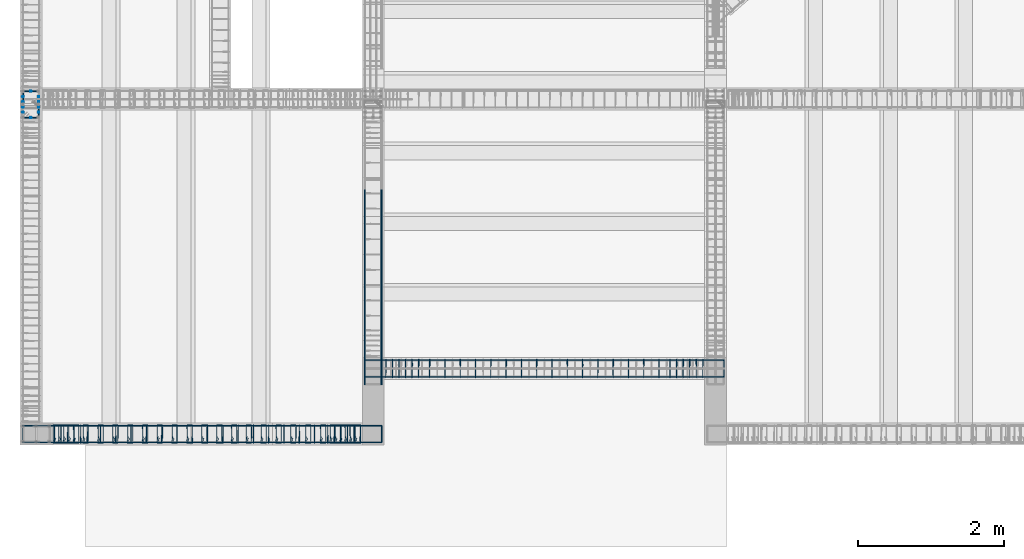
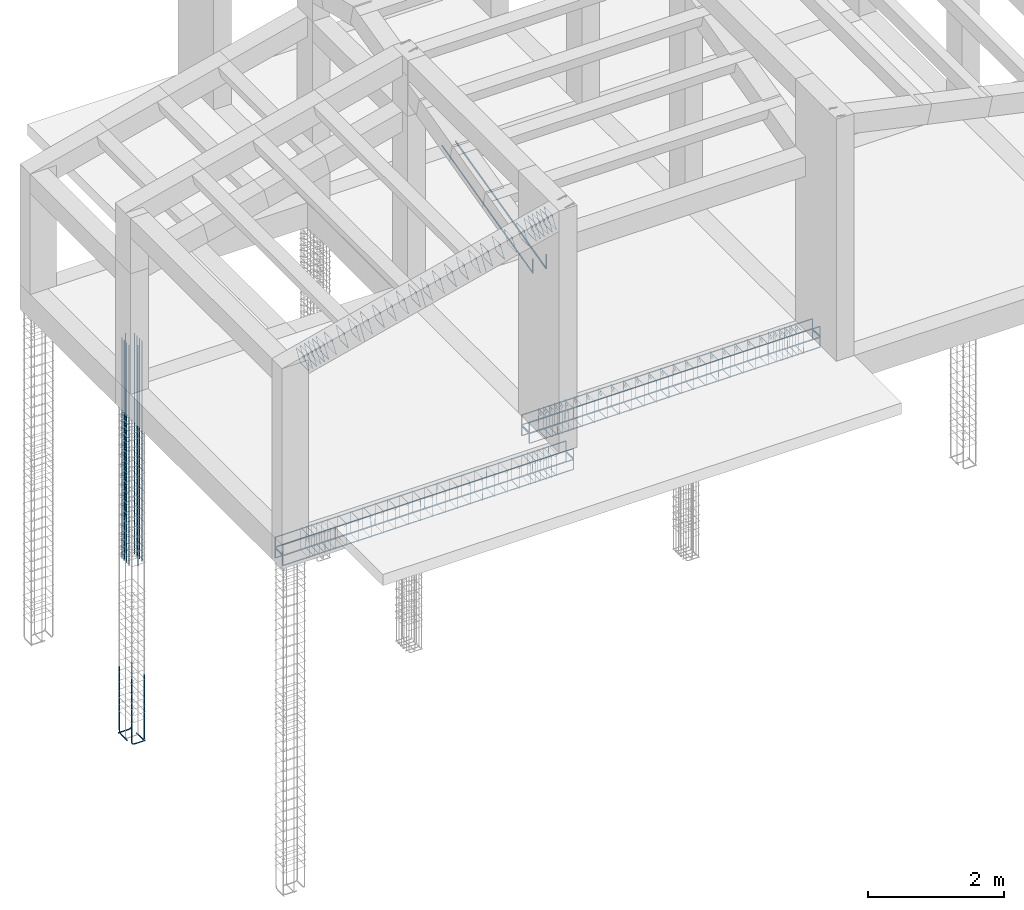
# One storey, part 3 of 15: 11 reinforcing bars.
"""IFC4 building model written with IfcOpenShell, lengths in metres."""

import ifcopenshell
import ifcopenshell.guid

model = None  # the IFC model being written
_history = None  # IfcOwnerHistory: only IFC2X3 demands one
_inside = {}  # id of a spatial element -> (the spatial element, [elements in it])
_under = {}  # id of a project, library or spatial element -> (it, [spatial elements below it])
_declared = {}  # id of a project -> (the project, [libraries it declares])
_typed = {}  # id of a type object -> (the type object, [elements of that type])
_made_of = {}  # id of a material, layer set ... -> (it, [elements and type objects made of it])


def new_model(schema):
    """Start an empty IFC model of exactly this schema.

    Asked for "IFC4X3", IfcOpenShell would pick the latest addendum, in which some entities
    have other attributes; the version numbers below select the first issue.
    IFC2X3 requires an IfcOwnerHistory on every rooted entity: one is made here for all.
    """
    global model, _history
    if schema == "IFC4X3":
        model = ifcopenshell.file(schema_version=(4, 3, 0, 0))
    else:
        model = ifcopenshell.file(schema=schema)
    _inside.clear()
    _under.clear()
    _declared.clear()
    _typed.clear()
    _made_of.clear()
    _history = None
    if model.schema == "IFC2X3":
        org = make("IfcOrganization", Name="unknown")
        user = make(
            "IfcPersonAndOrganization",
            ThePerson=make("IfcPerson", FamilyName="unknown"),
            TheOrganization=org,
        )
        app = make(
            "IfcApplication",
            ApplicationDeveloper=org,
            Version="unknown",
            ApplicationFullName="unknown",
            ApplicationIdentifier="unknown",
        )
        _history = make(
            "IfcOwnerHistory",
            OwningUser=user,
            OwningApplication=app,
            ChangeAction="ADDED",
            CreationDate=0,
        )
    return model


def make(cls, **values):
    """One entity of the class cls with the attributes given. An attribute that is None is left unset."""
    return model.create_entity(
        cls, **{name: value for name, value in values.items() if value is not None}
    )


def entity(cls, *values):
    """Any entity or typed value of the class cls, its attributes in the order of the schema. None: left unset."""
    e = model.create_entity(cls)
    for i, value in enumerate(values):
        if value is not None:
            e[i] = value
    return e


def rooted(cls, **values):
    """An entity with a GlobalId (a new one), such as an element, a storey or a relation."""
    return make(cls, GlobalId=ifcopenshell.guid.new(), OwnerHistory=_history, **values)


def si_unit(unit_type, name, prefix=None):
    """IfcSIUnit, for example si_unit("LENGTHUNIT", "METRE", prefix="MILLI")."""
    return make("IfcSIUnit", UnitType=unit_type, Prefix=prefix, Name=name)


def assignment(units):
    """IfcUnitAssignment: the units of a project."""
    return None if units is None else make("IfcUnitAssignment", Units=units)


def point(xyz):
    """IfcCartesianPoint."""
    return None if xyz is None else make("IfcCartesianPoint", Coordinates=xyz)


def direction(xyz):
    """IfcDirection."""
    return None if xyz is None else make("IfcDirection", DirectionRatios=xyz)


def frame(location, z_axis=None, x_axis=None):
    """IfcAxis2Placement3D, a coordinate frame: its origin and axes. An axis left out is left unset."""
    return make(
        "IfcAxis2Placement3D",
        Location=point(location),
        Axis=direction(z_axis),
        RefDirection=direction(x_axis),
    )


def origin_with_axes():
    """The frame at (0, 0, 0) with the z axis (0, 0, 1) and the x axis (1, 0, 0) written out."""
    return frame((0.0, 0.0, 0.0), z_axis=(0.0, 0.0, 1.0), x_axis=(1.0, 0.0, 0.0))


def place(relative_to, where):
    """IfcLocalPlacement: puts the frame where relative to a parent placement (None: the world)."""
    return make(
        "IfcLocalPlacement", PlacementRelTo=relative_to, RelativePlacement=where
    )


def context(
    kind, dimensions, precision=None, world=None, true_north=None, identifier=None
):
    """IfcGeometricRepresentationContext, for example the 3D "Model" context."""
    return make(
        "IfcGeometricRepresentationContext",
        ContextIdentifier=identifier,
        ContextType=kind,
        CoordinateSpaceDimension=dimensions,
        Precision=precision,
        WorldCoordinateSystem=world,
        TrueNorth=true_north,
    )


def project(units=None, contexts=None):
    """IfcProject with its units and contexts."""
    return rooted(
        "IfcProject",
        Name="project",
        RepresentationContexts=contexts,
        UnitsInContext=assignment(units),
    )


def spatial(cls, under=None, at=None, **own):
    """A site, building, storey or space (cls), placed at a placement, below another one or the project."""
    s = rooted(cls, ObjectPlacement=at, **own)
    if under is not None:
        _under.setdefault(under.id(), (under, []))[1].append(s)
    return s


def shape(context_of_items, identifier, shape_type, items):
    """IfcShapeRepresentation: the items that make up one representation, for example the "Body"."""
    return make(
        "IfcShapeRepresentation",
        ContextOfItems=context_of_items,
        RepresentationIdentifier=identifier,
        RepresentationType=shape_type,
        Items=items,
    )


def source(mapping_origin, context_of_items, identifier, shape_type, items):
    """IfcRepresentationMap: a shape defined once, which mapped items show again and again."""
    return make(
        "IfcRepresentationMap",
        MappingOrigin=mapping_origin,
        MappedRepresentation=shape(context_of_items, identifier, shape_type, items),
    )


def transform(
    local_origin,
    x_axis=None,
    y_axis=None,
    z_axis=None,
    scale=None,
    scale2=None,
    scale3=None,
    uniform=True,
):
    """IfcCartesianTransformationOperator3D, or its non-uniform kind. x_axis, y_axis, z_axis: its Axis1, 2, 3."""
    if uniform:
        return make(
            "IfcCartesianTransformationOperator3D",
            Axis1=direction(x_axis),
            Axis2=direction(y_axis),
            LocalOrigin=point(local_origin),
            Scale=scale,
            Axis3=direction(z_axis),
        )
    return make(
        "IfcCartesianTransformationOperator3DnonUniform",
        Axis1=direction(x_axis),
        Axis2=direction(y_axis),
        LocalOrigin=point(local_origin),
        Scale=scale,
        Axis3=direction(z_axis),
        Scale2=scale2,
        Scale3=scale3,
    )


def mapped(mapping_source, mapping_target):
    """IfcMappedItem: shows the shape of a source again, moved by a transform."""
    return make(
        "IfcMappedItem", MappingSource=mapping_source, MappingTarget=mapping_target
    )


def made_of(thing, what):
    """Note that an element or type object is made of a material, layer set ...; save() writes the relation."""
    if what is not None:
        _made_of.setdefault(what.id(), (what, []))[1].append(thing)
    return thing


def element(
    cls,
    number,
    at=None,
    inside=None,
    cuts=None,
    type_object=None,
    material=None,
    context=None,
    identifier="Body",
    shape_type=None,
    held_by="IfcProductDefinitionShape",
    body=None,
    shapes=None,
    **own,
):
    """One element of the class cls, such as IfcWall. Its Tag is "e" and its number.

    at: its placement. inside: the storey or other place that contains it. cuts: it is an
    opening in that element (IfcRelVoidsElement). A single representation is given by context,
    identifier, shape_type and body (its items); several are given by shapes. held_by: the class
    of the entity that holds the representations. save() writes the other relations.
    """
    e = rooted(cls, Tag="e%d" % number, ObjectPlacement=at, **own)
    if body is not None:
        shapes = [shape(context, identifier, shape_type, body)]
    if shapes is not None:
        e.Representation = make(held_by, Representations=shapes)
    if inside is not None:
        _inside.setdefault(inside.id(), (inside, []))[1].append(e)
    if cuts is not None:
        rooted(
            "IfcRelVoidsElement", RelatingBuildingElement=cuts, RelatedOpeningElement=e
        )
    if type_object is not None:
        _typed.setdefault(type_object.id(), (type_object, []))[1].append(e)
    return made_of(e, material)


def aggregate(whole, parts):
    """IfcRelAggregates: a whole, such as a stair, and the parts it consists of."""
    return rooted("IfcRelAggregates", RelatingObject=whole, RelatedObjects=parts)


def save(model, path):
    """Write the relations noted so far, then the file.

    IfcRelAggregates (storeys below a building ...), IfcRelContainedInSpatialStructure (elements
    in a storey), IfcRelDefinesByType, IfcRelAssociatesMaterial and IfcRelDeclares: one each for
    every whole, place, type object, material and project.
    """
    for whole, parts in _under.values():
        aggregate(whole, parts)
    for where, things in _inside.values():
        rooted(
            "IfcRelContainedInSpatialStructure",
            RelatedElements=things,
            RelatingStructure=where,
        )
    for kind, things in _typed.values():
        rooted("IfcRelDefinesByType", RelatedObjects=things, RelatingType=kind)
    for what, things in _made_of.values():
        rooted("IfcRelAssociatesMaterial", RelatedObjects=things, RelatingMaterial=what)
    for by, libraries in _declared.values():
        rooted("IfcRelDeclares", RelatingContext=by, RelatedDefinitions=libraries)
    model.write(path)


model = new_model("IFC4")

# Units and contexts
model_context = context("Model", 3, precision=1e-05, world=origin_with_axes())
ifc_project = project(units=[si_unit("LENGTHUNIT", "METRE"), si_unit("AREAUNIT", "SQUARE_METRE"), si_unit("VOLUMEUNIT", "CUBIC_METRE"), si_unit("MASSUNIT", "GRAM", prefix="KILO"), si_unit("TIMEUNIT", "SECOND"), si_unit("PLANEANGLEUNIT", "RADIAN"), si_unit("SOLIDANGLEUNIT", "STERADIAN"), si_unit("THERMODYNAMICTEMPERATUREUNIT", "DEGREE_CELSIUS")], contexts=[model_context])

# Site, building, storey
placement_1 = place(None, origin_with_axes())
site = spatial("IfcSite", under=ifc_project, at=placement_1, Name="Italia", CompositionType="ELEMENT")
building = spatial("IfcBuilding", under=site, at=placement_1, Name="Bifamiliare", CompositionType="ELEMENT")
storey_placement = place(None, frame((0.0, 0.0, 5.949999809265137), z_axis=(0.0, 0.0, 1.0), x_axis=(1.0, 0.0, 0.0)))
storey = spatial("IfcBuildingStorey", under=building, at=storey_placement, Name="Storey 2", CompositionType="ELEMENT", Elevation=5.949999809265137)

# Reinforcing bars
shared_shape_1 = source(origin_with_axes(), model_context, "Body", "AdvancedSweptSolid", [
    entity("IfcSweptDiskSolid", entity("IfcIndexedPolyCurve", entity("IfcCartesianPointList3D", [[1.376, 5.894, -0.375], [1.194, 5.894, -0.375], [1.17487, 5.894, -0.371194], [1.15864, 5.894, -0.360355], [1.14781, 5.894, -0.344134], [1.144, 5.894, -0.325], [1.144, 5.894, 0.8125]]), [entity("IfcLineIndex", [1, 2]), entity("IfcLineIndex", [2, 3]), entity("IfcLineIndex", [3, 4]), entity("IfcLineIndex", [4, 5]), entity("IfcLineIndex", [5, 6]), entity("IfcLineIndex", [6, 7])], False), 0.01),
])
placement_2 = place(placement_1, origin_with_axes())
reinforcing_bar_1_placement = place(placement_2, origin_with_axes())
element("IfcReinforcingBar", 1, at=reinforcing_bar_1_placement, inside=storey, BarLength=1.39754, CrossSectionArea=0.00031416, NominalDiameter=0.02, context=model_context, shape_type="MappedRepresentation", body=[
    mapped(shared_shape_1, transform((-4.75, 7.4, 0.0), x_axis=(0.0, -1.0, 0.0), y_axis=(1.0, 0.0, 0.0), z_axis=(0.0, 0.0, 1.0), scale=1.0)),
    mapped(shared_shape_1, transform((0.0, 0.0, 0.0), x_axis=(1.0, 0.0, 0.0), y_axis=(0.0, 1.0, 0.0), z_axis=(0.0, 0.0, 1.0), scale=1.0)),
    mapped(shared_shape_1, transform((7.25, 4.75, 0.0), x_axis=(0.0, 1.0, 0.0), y_axis=(-1.0, 0.0, 0.0), z_axis=(0.0, 0.0, 1.0), scale=1.0)),
    mapped(shared_shape_1, transform((2.5, 12.15, 0.0), x_axis=(-1.0, 0.0, 0.0), y_axis=(0.0, -1.0, 0.0), z_axis=(0.0, 0.0, 1.0), scale=1.0)),
])
shared_shape_2 = source(origin_with_axes(), model_context, "Body", "AdvancedSweptSolid", [
    entity("IfcSweptDiskSolid", entity("IfcIndexedPolyCurve", entity("IfcCartesianPointList3D", [[1.142, 5.9676, 2.8], [1.142, 5.9676, 6.75]]), [entity("IfcLineIndex", [1, 2])], False), 0.008),
])
reinforcing_bar_2_placement = place(placement_2, origin_with_axes())
element("IfcReinforcingBar", 2, at=reinforcing_bar_2_placement, inside=storey, BarLength=3.95, CrossSectionArea=0.00020106, NominalDiameter=0.016, context=model_context, shape_type="MappedRepresentation", body=[
    mapped(shared_shape_2, transform((0.216, 0.143199, 0.0), x_axis=(1.0, 0.0, 0.0), y_axis=(0.0, 1.0, 0.0), z_axis=(0.0, 0.0, 1.0), scale=1.0)),
    mapped(shared_shape_2, transform((0.216, 0.214799, 0.0), x_axis=(1.0, 0.0, 0.0), y_axis=(0.0, 1.0, 0.0), z_axis=(0.0, 0.0, 1.0), scale=1.0)),
    mapped(shared_shape_2, transform((0.216, 0.0, 0.0), x_axis=(1.0, 0.0, 0.0), y_axis=(0.0, 1.0, 0.0), z_axis=(0.0, 0.0, 1.0), scale=1.0)),
    mapped(shared_shape_2, transform((0.216, 0.0715995, 0.0), x_axis=(1.0, 0.0, 0.0), y_axis=(0.0, 1.0, 0.0), z_axis=(0.0, 0.0, 1.0), scale=1.0)),
    mapped(shared_shape_2, transform((0.0, 0.0, 0.0), x_axis=(1.0, 0.0, 0.0), y_axis=(0.0, 1.0, 0.0), z_axis=(0.0, 0.0, 1.0), scale=1.0)),
    mapped(shared_shape_2, transform((0.107995, -0.0756006, 0.0), x_axis=(1.0, 0.0, 0.0), y_axis=(0.0, 1.0, 0.0), z_axis=(0.0, 0.0, 1.0), scale=1.0)),
    mapped(shared_shape_2, transform((0.0, 0.143199, 0.0), x_axis=(1.0, 0.0, 0.0), y_axis=(0.0, 1.0, 0.0), z_axis=(0.0, 0.0, 1.0), scale=1.0)),
    mapped(shared_shape_2, transform((0.0, 0.0715995, 0.0), x_axis=(1.0, 0.0, 0.0), y_axis=(0.0, 1.0, 0.0), z_axis=(0.0, 0.0, 1.0), scale=1.0)),
    mapped(shared_shape_2, transform((0.108005, 0.2904, 0.0), x_axis=(1.0, 0.0, 0.0), y_axis=(0.0, 1.0, 0.0), z_axis=(0.0, 0.0, 1.0), scale=1.0)),
    mapped(shared_shape_2, transform((0.0, 0.214799, 0.0), x_axis=(1.0, 0.0, 0.0), y_axis=(0.0, 1.0, 0.0), z_axis=(0.0, 0.0, 1.0), scale=1.0)),
])
shared_shape_3 = source(origin_with_axes(), model_context, "Body", "AdvancedSweptSolid", [
    entity("IfcSweptDiskSolid", entity("IfcIndexedPolyCurve", entity("IfcCartesianPointList3D", [[1.578, 1.49471, 5.83429], [1.57741, 1.42693, 5.90207], [1.57736, 1.424, 5.90914], [1.57732, 1.424, 5.916], [1.5773, 1.42476, 5.91983], [1.57727, 1.42693, 5.92307], [1.57725, 1.43017, 5.92524], [1.57722, 1.434, 5.926], [1.5758, 1.666, 5.926], [1.57577, 1.66983, 5.92524], [1.57575, 1.67307, 5.92307], [1.57572, 1.67524, 5.91983], [1.5757, 1.676, 5.916], [1.57341, 1.676, 5.544], [1.57339, 1.67524, 5.54017], [1.57336, 1.67307, 5.53693], [1.57334, 1.66983, 5.53476], [1.57331, 1.666, 5.534], [1.57189, 1.434, 5.534], [1.57186, 1.43017, 5.53476], [1.57184, 1.42693, 5.53693], [1.57181, 1.42476, 5.54017], [1.57179, 1.424, 5.544], [1.5695, 1.424, 5.916], [1.56948, 1.42476, 5.91983], [1.56945, 1.42693, 5.92307], [1.56943, 1.43017, 5.92524], [1.56941, 1.434, 5.926], [1.56936, 1.44086, 5.926], [1.56932, 1.44793, 5.92307], [1.56873, 1.51571, 5.85529]]), [entity("IfcLineIndex", [1, 2]), entity("IfcLineIndex", [2, 3]), entity("IfcLineIndex", [3, 4]), entity("IfcLineIndex", [4, 5]), entity("IfcLineIndex", [5, 6]), entity("IfcLineIndex", [6, 7]), entity("IfcLineIndex", [7, 8]), entity("IfcLineIndex", [8, 9]), entity("IfcLineIndex", [9, 10]), entity("IfcLineIndex", [10, 11]), entity("IfcLineIndex", [11, 12]), entity("IfcLineIndex", [12, 13]), entity("IfcLineIndex", [13, 14]), entity("IfcLineIndex", [14, 15]), entity("IfcLineIndex", [15, 16]), entity("IfcLineIndex", [16, 17]), entity("IfcLineIndex", [17, 18]), entity("IfcLineIndex", [18, 19]), entity("IfcLineIndex", [19, 20]), entity("IfcLineIndex", [20, 21]), entity("IfcLineIndex", [21, 22]), entity("IfcLineIndex", [22, 23]), entity("IfcLineIndex", [23, 24]), entity("IfcLineIndex", [24, 25]), entity("IfcLineIndex", [25, 26]), entity("IfcLineIndex", [26, 27]), entity("IfcLineIndex", [27, 28]), entity("IfcLineIndex", [28, 29]), entity("IfcLineIndex", [29, 30]), entity("IfcLineIndex", [30, 31])], False), 0.004),
])
reinforcing_bar_3_placement = place(placement_2, origin_with_axes())
element("IfcReinforcingBar", 3, at=reinforcing_bar_3_placement, inside=storey, BarLength=1.50681, CrossSectionArea=5.0265e-05, NominalDiameter=0.008, context=model_context, shape_type="MappedRepresentation", body=[
    mapped(shared_shape_3, transform((0.0, 0.0, 0.0), x_axis=(1.0, 0.0, 0.0), y_axis=(0.0, 1.0, 0.0), z_axis=(0.0, 0.0, 1.0), scale=1.0)),
    mapped(shared_shape_3, transform((0.36, 0.0, 0.0), x_axis=(1.0, 0.0, 0.0), y_axis=(0.0, 1.0, 0.0), z_axis=(0.0, 0.0, 1.0), scale=1.0)),
    mapped(shared_shape_3, transform((0.0900005, 0.0, 0.0), x_axis=(1.0, 0.0, 0.0), y_axis=(0.0, 1.0, 0.0), z_axis=(0.0, 0.0, 1.0), scale=1.0)),
    mapped(shared_shape_3, transform((1.89122, -5.16176e-05, -4.673e-05), x_axis=(1.0, 3.17295e-05, 3.00232e-05), y_axis=(-3.17858e-05, 1.0, 0.0), z_axis=(-3.00232e-05, 0.0, 1.0), scale=1.0)),
    mapped(shared_shape_3, transform((0.841223, -5.16176e-05, -4.673e-05), x_axis=(1.0, 3.17295e-05, 3.00232e-05), y_axis=(-3.17858e-05, 1.0, 0.0), z_axis=(-3.00232e-05, 0.0, 1.0), scale=1.0)),
    mapped(shared_shape_3, transform((0.18, 0.0, 0.0), x_axis=(1.0, 0.0, 0.0), y_axis=(0.0, 1.0, 0.0), z_axis=(0.0, 0.0, 1.0), scale=1.0)),
    mapped(shared_shape_3, transform((1.68122, -5.16176e-05, -4.673e-05), x_axis=(1.0, 3.17295e-05, 3.00232e-05), y_axis=(-3.17858e-05, 1.0, 0.0), z_axis=(-3.00232e-05, 0.0, 1.0), scale=1.0)),
    mapped(shared_shape_3, transform((0.27, 0.0, 0.0), x_axis=(1.0, 0.0, 0.0), y_axis=(0.0, 1.0, 0.0), z_axis=(0.0, 0.0, 1.0), scale=1.0)),
    mapped(shared_shape_3, transform((0.631224, -5.16176e-05, -4.673e-05), x_axis=(1.0, 3.17295e-05, 3.00232e-05), y_axis=(-3.17858e-05, 1.0, 0.0), z_axis=(-3.00232e-05, 0.0, 1.0), scale=1.0)),
    mapped(shared_shape_3, transform((1.05122, -5.16176e-05, -4.673e-05), x_axis=(1.0, 3.17295e-05, 3.00232e-05), y_axis=(-3.17858e-05, 1.0, 0.0), z_axis=(-3.00232e-05, 0.0, 1.0), scale=1.0)),
    mapped(shared_shape_3, transform((2.31122, -5.16176e-05, -4.673e-05), x_axis=(1.0, 3.17295e-05, 3.00232e-05), y_axis=(-3.17858e-05, 1.0, 0.0), z_axis=(-3.00232e-05, 0.0, 1.0), scale=1.0)),
    mapped(shared_shape_3, transform((1.26122, -5.16176e-05, -4.673e-05), x_axis=(1.0, 3.17295e-05, 3.00232e-05), y_axis=(-3.17858e-05, 1.0, 0.0), z_axis=(-3.00232e-05, 0.0, 1.0), scale=1.0)),
    mapped(shared_shape_3, transform((0.450223, -5.16176e-05, -4.673e-05), x_axis=(1.0, 3.17295e-05, 3.00232e-05), y_axis=(-3.17858e-05, 1.0, 0.0), z_axis=(-3.00232e-05, 0.0, 1.0), scale=1.0)),
    mapped(shared_shape_3, transform((1.47122, -5.16176e-05, -4.673e-05), x_axis=(1.0, 3.17295e-05, 3.00232e-05), y_axis=(-3.17858e-05, 1.0, 0.0), z_axis=(-3.00232e-05, 0.0, 1.0), scale=1.0)),
    mapped(shared_shape_3, transform((2.10122, -5.16176e-05, -4.673e-05), x_axis=(1.0, 3.17295e-05, 3.00232e-05), y_axis=(-3.17858e-05, 1.0, 0.0), z_axis=(-3.00232e-05, 0.0, 1.0), scale=1.0)),
    mapped(shared_shape_3, transform((4.11218, -3.25441e-05, -3.86238e-05), x_axis=(1.0, 1.97293e-05, 2.50461e-05), y_axis=(-1.97802e-05, 1.0, 0.0), z_axis=(-2.50461e-05, 0.0, 1.0), scale=1.0)),
    mapped(shared_shape_3, transform((3.75218, -3.25441e-05, -3.86238e-05), x_axis=(1.0, 1.97293e-05, 2.50461e-05), y_axis=(-1.97802e-05, 1.0, 0.0), z_axis=(-2.50461e-05, 0.0, 1.0), scale=1.0)),
    mapped(shared_shape_3, transform((3.84218, -3.25441e-05, -3.86238e-05), x_axis=(1.0, 1.97293e-05, 2.50461e-05), y_axis=(-1.97802e-05, 1.0, 0.0), z_axis=(-2.50461e-05, 0.0, 1.0), scale=1.0)),
    mapped(shared_shape_3, transform((4.02218, -3.25441e-05, -3.86238e-05), x_axis=(1.0, 1.97293e-05, 2.50461e-05), y_axis=(-1.97802e-05, 1.0, 0.0), z_axis=(-2.50461e-05, 0.0, 1.0), scale=1.0)),
    mapped(shared_shape_3, transform((3.36118, -3.25441e-05, -3.86238e-05), x_axis=(1.0, 1.97293e-05, 2.50461e-05), y_axis=(-1.97802e-05, 1.0, 0.0), z_axis=(-2.50461e-05, 0.0, 1.0), scale=1.0)),
    mapped(shared_shape_3, transform((2.73118, -3.25441e-05, -3.86238e-05), x_axis=(1.0, 1.97293e-05, 2.50461e-05), y_axis=(-1.97802e-05, 1.0, 0.0), z_axis=(-2.50461e-05, 0.0, 1.0), scale=1.0)),
    mapped(shared_shape_3, transform((3.57118, -3.25441e-05, -3.86238e-05), x_axis=(1.0, 1.97293e-05, 2.50461e-05), y_axis=(-1.97802e-05, 1.0, 0.0), z_axis=(-2.50461e-05, 0.0, 1.0), scale=1.0)),
    mapped(shared_shape_3, transform((2.94118, -3.25441e-05, -3.86238e-05), x_axis=(1.0, 1.97293e-05, 2.50461e-05), y_axis=(-1.97802e-05, 1.0, 0.0), z_axis=(-2.50461e-05, 0.0, 1.0), scale=1.0)),
    mapped(shared_shape_3, transform((3.15118, -3.25441e-05, -3.86238e-05), x_axis=(1.0, 1.97293e-05, 2.50461e-05), y_axis=(-1.97802e-05, 1.0, 0.0), z_axis=(-2.50461e-05, 0.0, 1.0), scale=1.0)),
    mapped(shared_shape_3, transform((3.93218, -3.25441e-05, -3.86238e-05), x_axis=(1.0, 1.97293e-05, 2.50461e-05), y_axis=(-1.97802e-05, 1.0, 0.0), z_axis=(-2.50461e-05, 0.0, 1.0), scale=1.0)),
    mapped(shared_shape_3, transform((4.20218, -3.25441e-05, -3.86238e-05), x_axis=(1.0, 1.97293e-05, 2.50461e-05), y_axis=(-1.97802e-05, 1.0, 0.0), z_axis=(-2.50461e-05, 0.0, 1.0), scale=1.0)),
    mapped(shared_shape_3, transform((2.52118, -3.25441e-05, -3.86238e-05), x_axis=(1.0, 1.97293e-05, 2.50461e-05), y_axis=(-1.97802e-05, 1.0, 0.0), z_axis=(-2.50461e-05, 0.0, 1.0), scale=1.0)),
])
shared_shape_4 = source(origin_with_axes(), model_context, "Body", "AdvancedSweptSolid", [
    entity("IfcSweptDiskSolid", entity("IfcIndexedPolyCurve", entity("IfcCartesianPointList3D", [[1.134, 1.437, 5.795], [1.134, 1.437, 5.555], [1.13476, 1.437, 5.55117], [1.13693, 1.437, 5.54793], [1.14017, 1.437, 5.54576], [1.144, 1.437, 5.545], [6.055, 1.437, 5.545], [6.05883, 1.437, 5.54576], [6.06207, 1.437, 5.54793], [6.06424, 1.437, 5.55117], [6.065, 1.437, 5.555], [6.065, 1.437, 5.795]]), [entity("IfcLineIndex", [1, 2]), entity("IfcLineIndex", [2, 3]), entity("IfcLineIndex", [3, 4]), entity("IfcLineIndex", [4, 5]), entity("IfcLineIndex", [5, 6]), entity("IfcLineIndex", [6, 7]), entity("IfcLineIndex", [7, 8]), entity("IfcLineIndex", [8, 9]), entity("IfcLineIndex", [9, 10]), entity("IfcLineIndex", [10, 11]), entity("IfcLineIndex", [11, 12])], False), 0.009),
])
reinforcing_bar_4_placement = place(placement_2, origin_with_axes())
element("IfcReinforcingBar", 4, at=reinforcing_bar_4_placement, inside=storey, BarLength=5.42221, CrossSectionArea=0.00025447, NominalDiameter=0.018, context=model_context, shape_type="MappedRepresentation", body=[
    mapped(shared_shape_4, transform((0.0, 0.226, 0.0), x_axis=(1.0, 0.0, 0.0), y_axis=(0.0, 1.0, 0.0), z_axis=(0.0, 0.0, 1.0), scale=1.0)),
    mapped(shared_shape_4, transform((0.0, 0.0, 0.0), x_axis=(1.0, 0.0, 0.0), y_axis=(0.0, 1.0, 0.0), z_axis=(0.0, 0.0, 1.0), scale=1.0)),
    mapped(shared_shape_4, transform((0.0, 3.1, 11.46), x_axis=(1.0, 0.0, 0.0), y_axis=(0.0, -1.0, 0.0), z_axis=(0.0, 0.0, -1.0), scale=1.0)),
    mapped(shared_shape_4, transform((0.0, 2.874, 11.46), x_axis=(1.0, 0.0, 0.0), y_axis=(0.0, -1.0, 0.0), z_axis=(0.0, 0.0, -1.0), scale=1.0)),
])
shared_shape_5 = source(origin_with_axes(), model_context, "Body", "AdvancedSweptSolid", [
    entity("IfcSweptDiskSolid", entity("IfcIndexedPolyCurve", entity("IfcCartesianPointList3D", [[1.134, 1.436, 5.736], [1.134, 1.656, 5.736], [1.13476, 1.65983, 5.736], [1.13693, 1.66307, 5.736], [1.14017, 1.66524, 5.736], [1.144, 1.666, 5.736], [6.055, 1.666, 5.736], [6.05883, 1.66524, 5.736], [6.06207, 1.66307, 5.736], [6.06424, 1.65983, 5.736], [6.065, 1.656, 5.736], [6.065, 1.436, 5.736]]), [entity("IfcLineIndex", [1, 2]), entity("IfcLineIndex", [2, 3]), entity("IfcLineIndex", [3, 4]), entity("IfcLineIndex", [4, 5]), entity("IfcLineIndex", [5, 6]), entity("IfcLineIndex", [6, 7]), entity("IfcLineIndex", [7, 8]), entity("IfcLineIndex", [8, 9]), entity("IfcLineIndex", [9, 10]), entity("IfcLineIndex", [10, 11]), entity("IfcLineIndex", [11, 12])], False), 0.006),
])
reinforcing_bar_5_placement = place(placement_2, origin_with_axes())
element("IfcReinforcingBar", 5, at=reinforcing_bar_5_placement, inside=storey, BarLength=5.38221, CrossSectionArea=0.0001131, NominalDiameter=0.012, context=model_context, shape_type="MappedRepresentation", body=[
    mapped(shared_shape_5, transform((0.0, 3.1, 11.46), x_axis=(1.0, 0.0, 0.0), y_axis=(0.0, -1.0, 0.0), z_axis=(0.0, 0.0, -1.0), scale=1.0)),
    mapped(shared_shape_5, transform((0.0, 0.0, 0.0), x_axis=(1.0, 0.0, 0.0), y_axis=(0.0, 1.0, 0.0), z_axis=(0.0, 0.0, 1.0), scale=1.0)),
])
shared_shape_6 = source(origin_with_axes(), model_context, "Body", "AdvancedSweptSolid", [
    entity("IfcSweptDiskSolid", entity("IfcIndexedPolyCurve", entity("IfcCartesianPointList3D", [[6.12, 2.50529, 5.83429], [6.12059, 2.57307, 5.90207], [6.12064, 2.576, 5.90914], [6.12068, 2.576, 5.916], [6.1207, 2.57524, 5.91983], [6.12073, 2.57307, 5.92307], [6.12075, 2.56983, 5.92524], [6.12078, 2.566, 5.926], [6.1222, 2.334, 5.926], [6.12223, 2.33017, 5.92524], [6.12225, 2.32693, 5.92307], [6.12228, 2.32476, 5.91983], [6.1223, 2.324, 5.916], [6.12459, 2.324, 5.544], [6.12461, 2.32476, 5.54017], [6.12464, 2.32693, 5.53693], [6.12466, 2.33017, 5.53476], [6.12469, 2.334, 5.534], [6.12611, 2.566, 5.534], [6.12614, 2.56983, 5.53476], [6.12616, 2.57307, 5.53693], [6.12619, 2.57524, 5.54017], [6.12621, 2.576, 5.544], [6.1285, 2.576, 5.916], [6.12852, 2.57524, 5.91983], [6.12855, 2.57307, 5.92307], [6.12857, 2.56983, 5.92524], [6.1286, 2.566, 5.926], [6.12864, 2.55914, 5.926], [6.12868, 2.55207, 5.92307], [6.12927, 2.48429, 5.85529]]), [entity("IfcLineIndex", [1, 2]), entity("IfcLineIndex", [2, 3]), entity("IfcLineIndex", [3, 4]), entity("IfcLineIndex", [4, 5]), entity("IfcLineIndex", [5, 6]), entity("IfcLineIndex", [6, 7]), entity("IfcLineIndex", [7, 8]), entity("IfcLineIndex", [8, 9]), entity("IfcLineIndex", [9, 10]), entity("IfcLineIndex", [10, 11]), entity("IfcLineIndex", [11, 12]), entity("IfcLineIndex", [12, 13]), entity("IfcLineIndex", [13, 14]), entity("IfcLineIndex", [14, 15]), entity("IfcLineIndex", [15, 16]), entity("IfcLineIndex", [16, 17]), entity("IfcLineIndex", [17, 18]), entity("IfcLineIndex", [18, 19]), entity("IfcLineIndex", [19, 20]), entity("IfcLineIndex", [20, 21]), entity("IfcLineIndex", [21, 22]), entity("IfcLineIndex", [22, 23]), entity("IfcLineIndex", [23, 24]), entity("IfcLineIndex", [24, 25]), entity("IfcLineIndex", [25, 26]), entity("IfcLineIndex", [26, 27]), entity("IfcLineIndex", [27, 28]), entity("IfcLineIndex", [28, 29]), entity("IfcLineIndex", [29, 30]), entity("IfcLineIndex", [30, 31])], False), 0.004),
])
reinforcing_bar_6_placement = place(placement_2, origin_with_axes())
element("IfcReinforcingBar", 6, at=reinforcing_bar_6_placement, inside=storey, BarLength=1.50681, CrossSectionArea=5.0265e-05, NominalDiameter=0.008, context=model_context, shape_type="MappedRepresentation", body=[
    mapped(shared_shape_6, transform((0.810999, 0.0, 0.0), x_axis=(1.0, 0.0, 0.0), y_axis=(0.0, 1.0, 0.0), z_axis=(0.0, 0.0, 1.0), scale=1.0)),
    mapped(shared_shape_6, transform((1.231, 0.0, 0.0), x_axis=(1.0, 0.0, 0.0), y_axis=(0.0, 1.0, 0.0), z_axis=(0.0, 0.0, 1.0), scale=1.0)),
    mapped(shared_shape_6, transform((1.021, 0.0, 0.0), x_axis=(1.0, 0.0, 0.0), y_axis=(0.0, 1.0, 0.0), z_axis=(0.0, 0.0, 1.0), scale=1.0)),
    mapped(shared_shape_6, transform((1.441, 0.0, 0.0), x_axis=(1.0, 0.0, 0.0), y_axis=(0.0, 1.0, 0.0), z_axis=(0.0, 0.0, 1.0), scale=1.0)),
    mapped(shared_shape_6, transform((1.861, 0.0, 0.0), x_axis=(1.0, 0.0, 0.0), y_axis=(0.0, 1.0, 0.0), z_axis=(0.0, 0.0, 1.0), scale=1.0)),
    mapped(shared_shape_6, transform((1.651, 0.0, 0.0), x_axis=(1.0, 0.0, 0.0), y_axis=(0.0, 1.0, 0.0), z_axis=(0.0, 0.0, 1.0), scale=1.0)),
    mapped(shared_shape_6, transform((2.07062, -0.000845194, 0.000762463), x_axis=(1.0, 0.0001391, -0.000125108), y_axis=(-0.000139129, 1.0, 0.0), z_axis=(0.000125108, 0.0, 1.0), scale=1.0)),
    mapped(shared_shape_6, transform((0.0900002, 0.0, 0.0), x_axis=(1.0, 0.0, 0.0), y_axis=(0.0, 1.0, 0.0), z_axis=(0.0, 0.0, 1.0), scale=1.0)),
    mapped(shared_shape_6, transform((0.0, 0.0, 0.0), x_axis=(1.0, 0.0, 0.0), y_axis=(0.0, 1.0, 0.0), z_axis=(0.0, 0.0, 1.0), scale=1.0)),
    mapped(shared_shape_6, transform((0.18, 0.0, 0.0), x_axis=(1.0, 0.0, 0.0), y_axis=(0.0, 1.0, 0.0), z_axis=(0.0, 0.0, 1.0), scale=1.0)),
    mapped(shared_shape_6, transform((0.36, 0.0, 0.0), x_axis=(1.0, 0.0, 0.0), y_axis=(0.0, 1.0, 0.0), z_axis=(0.0, 0.0, 1.0), scale=1.0)),
    mapped(shared_shape_6, transform((0.27, 0.0, 0.0), x_axis=(1.0, 0.0, 0.0), y_axis=(0.0, 1.0, 0.0), z_axis=(0.0, 0.0, 1.0), scale=1.0)),
    mapped(shared_shape_6, transform((0.45, 0.0, 0.0), x_axis=(1.0, 0.0, 0.0), y_axis=(0.0, 1.0, 0.0), z_axis=(0.0, 0.0, 1.0), scale=1.0)),
    mapped(shared_shape_6, transform((3.75062, -0.000845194, 0.000762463), x_axis=(1.0, 0.0001391, -0.000125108), y_axis=(-0.000139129, 1.0, 0.0), z_axis=(0.000125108, 0.0, 1.0), scale=1.0)),
    mapped(shared_shape_6, transform((0.601, 0.0, 0.0), x_axis=(1.0, 0.0, 0.0), y_axis=(0.0, 1.0, 0.0), z_axis=(0.0, 0.0, 1.0), scale=1.0)),
    mapped(shared_shape_6, transform((3.90162, -0.000845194, 0.000762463), x_axis=(1.0, 0.0001391, -0.000125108), y_axis=(-0.000139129, 1.0, 0.0), z_axis=(0.000125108, 0.0, 1.0), scale=1.0)),
    mapped(shared_shape_6, transform((4.08162, -0.000845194, 0.000762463), x_axis=(1.0, 0.0001391, -0.000125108), y_axis=(-0.000139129, 1.0, 0.0), z_axis=(0.000125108, 0.0, 1.0), scale=1.0)),
    mapped(shared_shape_6, transform((3.99162, -0.000845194, 0.000762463), x_axis=(1.0, 0.0001391, -0.000125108), y_axis=(-0.000139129, 1.0, 0.0), z_axis=(0.000125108, 0.0, 1.0), scale=1.0)),
    mapped(shared_shape_6, transform((4.17162, -0.000845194, 0.000762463), x_axis=(1.0, 0.0001391, -0.000125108), y_axis=(-0.000139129, 1.0, 0.0), z_axis=(0.000125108, 0.0, 1.0), scale=1.0)),
    mapped(shared_shape_6, transform((4.35162, -0.000845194, 0.000762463), x_axis=(1.0, 0.0001391, -0.000125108), y_axis=(-0.000139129, 1.0, 0.0), z_axis=(0.000125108, 0.0, 1.0), scale=1.0)),
    mapped(shared_shape_6, transform((4.26162, -0.000845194, 0.000762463), x_axis=(1.0, 0.0001391, -0.000125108), y_axis=(-0.000139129, 1.0, 0.0), z_axis=(0.000125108, 0.0, 1.0), scale=1.0)),
    mapped(shared_shape_6, transform((2.28062, -0.000845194, 0.000762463), x_axis=(1.0, 0.0001391, -0.000125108), y_axis=(-0.000139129, 1.0, 0.0), z_axis=(0.000125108, 0.0, 1.0), scale=1.0)),
    mapped(shared_shape_6, transform((2.70062, -0.000845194, 0.000762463), x_axis=(1.0, 0.0001391, -0.000125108), y_axis=(-0.000139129, 1.0, 0.0), z_axis=(0.000125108, 0.0, 1.0), scale=1.0)),
    mapped(shared_shape_6, transform((2.49062, -0.000845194, 0.000762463), x_axis=(1.0, 0.0001391, -0.000125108), y_axis=(-0.000139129, 1.0, 0.0), z_axis=(0.000125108, 0.0, 1.0), scale=1.0)),
    mapped(shared_shape_6, transform((2.91062, -0.000845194, 0.000762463), x_axis=(1.0, 0.0001391, -0.000125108), y_axis=(-0.000139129, 1.0, 0.0), z_axis=(0.000125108, 0.0, 1.0), scale=1.0)),
    mapped(shared_shape_6, transform((3.33062, -0.000845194, 0.000762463), x_axis=(1.0, 0.0001391, -0.000125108), y_axis=(-0.000139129, 1.0, 0.0), z_axis=(0.000125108, 0.0, 1.0), scale=1.0)),
    mapped(shared_shape_6, transform((3.12062, -0.000845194, 0.000762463), x_axis=(1.0, 0.0001391, -0.000125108), y_axis=(-0.000139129, 1.0, 0.0), z_axis=(0.000125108, 0.0, 1.0), scale=1.0)),
    mapped(shared_shape_6, transform((3.54062, -0.000845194, 0.000762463), x_axis=(1.0, 0.0001391, -0.000125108), y_axis=(-0.000139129, 1.0, 0.0), z_axis=(0.000125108, 0.0, 1.0), scale=1.0)),
])
shared_shape_7 = source(origin_with_axes(), model_context, "Body", "AdvancedSweptSolid", [
    entity("IfcSweptDiskSolid", entity("IfcIndexedPolyCurve", entity("IfcCartesianPointList3D", [[5.834, 2.337, 5.795], [5.834, 2.337, 5.555], [5.83476, 2.337, 5.55117], [5.83693, 2.337, 5.54793], [5.84017, 2.337, 5.54576], [5.844, 2.337, 5.545], [10.756, 2.337, 5.545], [10.7598, 2.337, 5.54576], [10.7631, 2.337, 5.54793], [10.7652, 2.337, 5.55117], [10.766, 2.337, 5.555], [10.766, 2.337, 5.795]]), [entity("IfcLineIndex", [1, 2]), entity("IfcLineIndex", [2, 3]), entity("IfcLineIndex", [3, 4]), entity("IfcLineIndex", [4, 5]), entity("IfcLineIndex", [5, 6]), entity("IfcLineIndex", [6, 7]), entity("IfcLineIndex", [7, 8]), entity("IfcLineIndex", [8, 9]), entity("IfcLineIndex", [9, 10]), entity("IfcLineIndex", [10, 11]), entity("IfcLineIndex", [11, 12])], False), 0.009),
])
reinforcing_bar_7_placement = place(placement_2, origin_with_axes())
element("IfcReinforcingBar", 7, at=reinforcing_bar_7_placement, inside=storey, BarLength=5.42321, CrossSectionArea=0.00025447, NominalDiameter=0.018, context=model_context, shape_type="MappedRepresentation", body=[
    mapped(shared_shape_7, transform((0.0, 0.226, 0.0), x_axis=(1.0, 0.0, 0.0), y_axis=(0.0, 1.0, 0.0), z_axis=(0.0, 0.0, 1.0), scale=1.0)),
    mapped(shared_shape_7, transform((0.0, 0.0, 0.0), x_axis=(1.0, 0.0, 0.0), y_axis=(0.0, 1.0, 0.0), z_axis=(0.0, 0.0, 1.0), scale=1.0)),
    mapped(shared_shape_7, transform((0.0, 4.9, 11.46), x_axis=(1.0, 0.0, 0.0), y_axis=(0.0, -1.0, 0.0), z_axis=(0.0, 0.0, -1.0), scale=1.0)),
    mapped(shared_shape_7, transform((0.0, 4.674, 11.46), x_axis=(1.0, 0.0, 0.0), y_axis=(0.0, -1.0, 0.0), z_axis=(0.0, 0.0, -1.0), scale=1.0)),
])
shared_shape_8 = source(origin_with_axes(), model_context, "Body", "AdvancedSweptSolid", [
    entity("IfcSweptDiskSolid", entity("IfcIndexedPolyCurve", entity("IfcCartesianPointList3D", [[5.834, 2.336, 5.736], [5.834, 2.556, 5.736], [5.83476, 2.55983, 5.736], [5.83693, 2.56307, 5.736], [5.84017, 2.56524, 5.736], [5.844, 2.566, 5.736], [10.756, 2.566, 5.736], [10.7598, 2.56524, 5.736], [10.7631, 2.56307, 5.736], [10.7652, 2.55983, 5.736], [10.766, 2.556, 5.736], [10.766, 2.336, 5.736]]), [entity("IfcLineIndex", [1, 2]), entity("IfcLineIndex", [2, 3]), entity("IfcLineIndex", [3, 4]), entity("IfcLineIndex", [4, 5]), entity("IfcLineIndex", [5, 6]), entity("IfcLineIndex", [6, 7]), entity("IfcLineIndex", [7, 8]), entity("IfcLineIndex", [8, 9]), entity("IfcLineIndex", [9, 10]), entity("IfcLineIndex", [10, 11]), entity("IfcLineIndex", [11, 12])], False), 0.006),
])
reinforcing_bar_8_placement = place(placement_2, origin_with_axes())
element("IfcReinforcingBar", 8, at=reinforcing_bar_8_placement, inside=storey, BarLength=5.38321, CrossSectionArea=0.0001131, NominalDiameter=0.012, context=model_context, shape_type="MappedRepresentation", body=[
    mapped(shared_shape_8, transform((0.0, 4.9, 11.46), x_axis=(1.0, 0.0, 0.0), y_axis=(0.0, -1.0, 0.0), z_axis=(0.0, 0.0, -1.0), scale=1.0)),
    mapped(shared_shape_8, transform((0.0, 0.0, 0.0), x_axis=(1.0, 0.0, 0.0), y_axis=(0.0, 1.0, 0.0), z_axis=(0.0, 0.0, 1.0), scale=1.0)),
])
shared_shape_9 = source(origin_with_axes(), model_context, "Body", "AdvancedSweptSolid", [
    entity("IfcSweptDiskSolid", entity("IfcIndexedPolyCurve", entity("IfcCartesianPointList3D", [[1.52011, 1.49471, 9.09617], [1.50294, 1.42693, 9.16175], [1.50116, 1.424, 9.16859], [1.49944, 1.424, 9.17523], [1.49849, 1.42476, 9.17894], [1.49767, 1.42693, 9.18208], [1.49711, 1.43017, 9.18417], [1.4969, 1.434, 9.1849], [1.49529, 1.666, 9.1845], [1.49545, 1.66983, 9.18375], [1.49595, 1.67307, 9.18164], [1.49672, 1.67524, 9.17849], [1.49762, 1.676, 9.17477], [1.56433, 1.676, 8.90077], [1.56524, 1.67524, 8.89705], [1.566, 1.67307, 8.8939], [1.5665, 1.66983, 8.89179], [1.56666, 1.666, 8.89105], [1.56505, 1.434, 8.89064], [1.56484, 1.43017, 8.89137], [1.56429, 1.42693, 8.89347], [1.56347, 1.42476, 8.89661], [1.56251, 1.424, 8.90031], [1.49189, 1.424, 9.17333], [1.49093, 1.42476, 9.17704], [1.49011, 1.42693, 9.18018], [1.48956, 1.43017, 9.18227], [1.48934, 1.434, 9.18301], [1.4893, 1.44086, 9.18299], [1.48996, 1.44793, 9.18014], [1.5058, 1.51571, 9.11423]]), [entity("IfcLineIndex", [1, 2]), entity("IfcLineIndex", [2, 3]), entity("IfcLineIndex", [3, 4]), entity("IfcLineIndex", [4, 5]), entity("IfcLineIndex", [5, 6]), entity("IfcLineIndex", [6, 7]), entity("IfcLineIndex", [7, 8]), entity("IfcLineIndex", [8, 9]), entity("IfcLineIndex", [9, 10]), entity("IfcLineIndex", [10, 11]), entity("IfcLineIndex", [11, 12]), entity("IfcLineIndex", [12, 13]), entity("IfcLineIndex", [13, 14]), entity("IfcLineIndex", [14, 15]), entity("IfcLineIndex", [15, 16]), entity("IfcLineIndex", [16, 17]), entity("IfcLineIndex", [17, 18]), entity("IfcLineIndex", [18, 19]), entity("IfcLineIndex", [19, 20]), entity("IfcLineIndex", [20, 21]), entity("IfcLineIndex", [21, 22]), entity("IfcLineIndex", [22, 23]), entity("IfcLineIndex", [23, 24]), entity("IfcLineIndex", [24, 25]), entity("IfcLineIndex", [25, 26]), entity("IfcLineIndex", [26, 27]), entity("IfcLineIndex", [27, 28]), entity("IfcLineIndex", [28, 29]), entity("IfcLineIndex", [29, 30]), entity("IfcLineIndex", [30, 31])], False), 0.004),
])
reinforcing_bar_9_placement = place(placement_2, origin_with_axes())
element("IfcReinforcingBar", 9, at=reinforcing_bar_9_placement, inside=storey, BarLength=1.32681, CrossSectionArea=5.0265e-05, NominalDiameter=0.008, context=model_context, shape_type="MappedRepresentation", body=[
    mapped(shared_shape_9, transform((0.068451, -0.000256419, 0.0169983), x_axis=(1.0, 4.71026e-05, 5.25787e-05), y_axis=(-4.67896e-05, 1.0, -2.02358e-05), z_axis=(-5.25797e-05, 2.02333e-05, 1.0), scale=1.0)),
    mapped(shared_shape_9, transform((0.272191, -0.000229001, 0.068121), x_axis=(1.0, 5.99101e-05, 5.72354e-05), y_axis=(-5.96717e-05, 1.0, -1.51694e-05), z_axis=(-5.72363e-05, 1.5166e-05, 1.0), scale=1.0)),
    mapped(shared_shape_9, transform((1.08474, -0.000430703, 0.271823), x_axis=(1.0, 0.000126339, 0.000133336), y_axis=(-0.000126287, 1.0, -2.62856e-05), z_axis=(-0.000133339, 2.62688e-05, 1.0), scale=1.0)),
    mapped(shared_shape_9, transform((0.0, 0.0, 0.0), x_axis=(1.0, 0.0, 0.0), y_axis=(0.0, 1.0, 0.0), z_axis=(0.0, 0.0, 1.0), scale=1.0)),
    mapped(shared_shape_9, transform((3.9346, -0.000993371, 0.986864), x_axis=(1.0, 0.00025738, 0.000256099), y_axis=(-0.000257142, 1.0, -6.62506e-05), z_axis=(-0.000256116, 6.61847e-05, 1.0), scale=1.0)),
    mapped(shared_shape_9, transform((4.06978, -0.000776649, 1.02102), x_axis=(1.0, 0.000201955, 0.000198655), y_axis=(-0.000201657, 1.0, -5.16772e-05), z_axis=(-0.000198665, 5.16372e-05, 1.0), scale=1.0)),
    mapped(shared_shape_9, transform((4.2061, -0.000955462, 1.05505), x_axis=(1.0, 0.000245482, 0.000251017), y_axis=(-0.000245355, 1.0, -6.40452e-05), z_axis=(-0.000251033, 6.39836e-05, 1.0), scale=1.0)),
    mapped(shared_shape_9, transform((1.28853, -0.000553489, 0.322962), x_axis=(1.0, 0.00014367, 0.000142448), y_axis=(-0.00014361, 1.0, -3.69847e-05), z_axis=(-0.000142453, 3.69642e-05, 1.0), scale=1.0)),
    mapped(shared_shape_9, transform((3.1216, -0.000536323, 0.783191), x_axis=(1.0, 0.000137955, 0.000139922), y_axis=(-0.000137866, 1.0, -3.58522e-05), z_axis=(-0.000139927, 3.58329e-05, 1.0), scale=1.0)),
    mapped(shared_shape_9, transform((4.13708, -0.000493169, 1.03812), x_axis=(1.0, 0.000145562, 0.000142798), y_axis=(-0.000145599, 1.0, -2.99513e-05), z_axis=(-0.000142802, 2.99305e-05, 1.0), scale=1.0)),
    mapped(shared_shape_9, transform((0.473455, -0.000353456, 0.118443), x_axis=(1.0, 0.000108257, 0.000109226), y_axis=(-0.000108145, 1.0, -2.0802e-05), z_axis=(-0.000109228, 2.07902e-05, 1.0), scale=1.0)),
    mapped(shared_shape_9, transform((1.89897, -0.000341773, 0.476434), x_axis=(1.0, 8.93921e-05, 8.66503e-05), y_axis=(-8.94815e-05, 1.0, -2.28286e-05), z_axis=(-8.66523e-05, 2.28208e-05, 1.0), scale=1.0)),
    mapped(shared_shape_9, transform((0.136376, -0.000210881, 0.0340319), x_axis=(1.0, 5.42253e-05, 5.49555e-05), y_axis=(-5.40242e-05, 1.0, -1.41561e-05), z_axis=(-5.49563e-05, 1.41531e-05, 1.0), scale=1.0)),
    mapped(shared_shape_9, transform((0.203958, -0.000159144, 0.0511198), x_axis=(1.0, 2.28211e-05, 2.5928e-05), y_axis=(-2.26125e-05, 1.0, -1.36495e-05), z_axis=(-2.59283e-05, 1.36489e-05, 1.0), scale=1.0)),
    mapped(shared_shape_9, transform((0.676279, -0.00011456, 0.169683), x_axis=(1.0, 2.99141e-05, 2.80812e-05), y_axis=(-2.97278e-05, 1.0, 0.0), z_axis=(-2.80815e-05, 0.0, 1.0), scale=1.0)),
    mapped(shared_shape_9, transform((1.49103, -0.00013411, 0.374225), x_axis=(1.0, 3.61279e-05, 3.11211e-05), y_axis=(-3.59938e-05, 1.0, 0.0), z_axis=(-3.11214e-05, 0.0, 1.0), scale=1.0)),
    mapped(shared_shape_9, transform((3.86429, -0.00011456, 0.970076), x_axis=(1.0, 2.99141e-05, 2.80812e-05), y_axis=(-2.97278e-05, 1.0, 0.0), z_axis=(-2.80815e-05, 0.0, 1.0), scale=1.0)),
    mapped(shared_shape_9, transform((3.73146, -0.00011456, 0.936728), x_axis=(1.0, 2.99141e-05, 2.80812e-05), y_axis=(-2.97278e-05, 1.0, 0.0), z_axis=(-2.80815e-05, 0.0, 1.0), scale=1.0)),
    mapped(shared_shape_9, transform((2.30571, -0.00011456, 0.578773), x_axis=(1.0, 2.99141e-05, 2.80812e-05), y_axis=(-2.97278e-05, 1.0, 0.0), z_axis=(-2.80815e-05, 0.0, 1.0), scale=1.0)),
    mapped(shared_shape_9, transform((4.00007, -0.00011456, 1.00417), x_axis=(1.0, 2.99141e-05, 2.80812e-05), y_axis=(-2.97278e-05, 1.0, 0.0), z_axis=(-2.80815e-05, 0.0, 1.0), scale=1.0)),
    mapped(shared_shape_9, transform((0.33973, -8.76188e-05, 0.0852022), x_axis=(1.0, 2.16588e-05, 2.45199e-05), y_axis=(-2.13087e-05, 1.0, 0.0), z_axis=(-2.452e-05, 0.0, 1.0), scale=1.0)),
    mapped(shared_shape_9, transform((3.52778, -0.00011456, 0.885592), x_axis=(1.0, 2.99141e-05, 2.80812e-05), y_axis=(-2.97278e-05, 1.0, 0.0), z_axis=(-2.80815e-05, 0.0, 1.0), scale=1.0)),
    mapped(shared_shape_9, transform((0.87993, -9.69172e-05, 0.22082), x_axis=(1.0, 2.42218e-05, 2.60174e-05), y_axis=(-2.41995e-05, 1.0, 0.0), z_axis=(-2.60176e-05, 0.0, 1.0), scale=1.0)),
    mapped(shared_shape_9, transform((1.6946, -1.29938e-05, 0.425361), x_axis=(1.0, 1.93417e-05, 2.22847e-05), y_axis=(-1.90437e-05, 1.0, 0.0), z_axis=(-2.22847e-05, 0.0, 1.0), scale=1.0)),
    mapped(shared_shape_9, transform((2.10132, 0.000167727, 0.527708), x_axis=(1.0, -4.66183e-05, -3.71039e-05), y_axis=(4.68939e-05, 1.0, 1.06394e-05), z_axis=(3.71034e-05, -1.06412e-05, 1.0), scale=1.0)),
    mapped(shared_shape_9, transform((2.71189, 0.000307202, 0.681176), x_axis=(1.0, -7.81342e-05, -8.37818e-05), y_axis=(7.84174e-05, 1.0, 2.07126e-05), z_axis=(8.37802e-05, -2.07192e-05, 1.0), scale=1.0)),
    mapped(shared_shape_9, transform((2.50821, 0.000307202, 0.630039), x_axis=(1.0, -7.81342e-05, -8.37818e-05), y_axis=(7.84174e-05, 1.0, 2.07126e-05), z_axis=(8.37802e-05, -2.07192e-05, 1.0), scale=1.0)),
    mapped(shared_shape_9, transform((2.91614, 0.000103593, 0.732247), x_axis=(1.0, -2.59727e-05, -2.90945e-05), y_axis=(2.5861e-05, 1.0, 0.0), z_axis=(2.90943e-05, 0.0, 1.0), scale=1.0)),
    mapped(shared_shape_9, transform((3.3241, -0.00011456, 0.834455), x_axis=(1.0, 2.99141e-05, 2.80812e-05), y_axis=(-2.97278e-05, 1.0, 0.0), z_axis=(-2.80815e-05, 0.0, 1.0), scale=1.0)),
])
shared_shape_10 = source(origin_with_axes(), model_context, "Body", "AdvancedSweptSolid", [
    entity("IfcSweptDiskSolid", entity("IfcIndexedPolyCurve", entity("IfcCartesianPointList3D", [[6.063, 2.23395, 8.90927], [6.063, 2.23395, 8.67209], [6.063, 2.23497, 8.6677], [6.063, 2.2378, 8.6642], [6.063, 2.24188, 8.6623], [6.063, 2.24638, 8.66239], [6.063, 4.32777, 9.18353], [6.063, 4.9016, 9.3272]]), [entity("IfcLineIndex", [1, 2]), entity("IfcLineIndex", [2, 3]), entity("IfcLineIndex", [3, 4]), entity("IfcLineIndex", [4, 5]), entity("IfcLineIndex", [5, 6]), entity("IfcLineIndex", [6, 7]), entity("IfcLineIndex", [7, 8])], False), 0.009),
])
reinforcing_bar_10_placement = place(placement_2, origin_with_axes())
element("IfcReinforcingBar", 10, at=reinforcing_bar_10_placement, inside=storey, BarLength=2.99238, CrossSectionArea=0.00025447, NominalDiameter=0.018, context=model_context, shape_type="MappedRepresentation", body=[
    mapped(shared_shape_10, transform((0.0, 0.0, 0.0), x_axis=(1.0, 0.0, 0.0), y_axis=(0.0, 1.0, 0.0), z_axis=(0.0, 0.0, 1.0), scale=1.0)),
])
shared_shape_11 = source(origin_with_axes(), model_context, "Body", "AdvancedSweptSolid", [
    entity("IfcSweptDiskSolid", entity("IfcIndexedPolyCurve", entity("IfcCartesianPointList3D", [[5.835, 2.23395, 8.90927], [5.835, 2.23395, 8.67209], [5.835, 2.23497, 8.6677], [5.835, 2.2378, 8.6642], [5.835, 2.24188, 8.6623], [5.835, 2.24638, 8.66239], [5.835, 4.32777, 9.18353], [5.835, 4.9016, 9.3272]]), [entity("IfcLineIndex", [1, 2]), entity("IfcLineIndex", [2, 3]), entity("IfcLineIndex", [3, 4]), entity("IfcLineIndex", [4, 5]), entity("IfcLineIndex", [5, 6]), entity("IfcLineIndex", [6, 7]), entity("IfcLineIndex", [7, 8])], False), 0.007),
])
reinforcing_bar_11_placement = place(placement_2, origin_with_axes())
element("IfcReinforcingBar", 11, at=reinforcing_bar_11_placement, inside=storey, BarLength=2.99238, CrossSectionArea=0.00015394, NominalDiameter=0.014, context=model_context, shape_type="MappedRepresentation", body=[
    mapped(shared_shape_11, transform((0.0, 0.0, 0.0), x_axis=(1.0, 0.0, 0.0), y_axis=(0.0, 1.0, 0.0), z_axis=(0.0, 0.0, 1.0), scale=1.0)),
])

save(model, "model.ifc")
